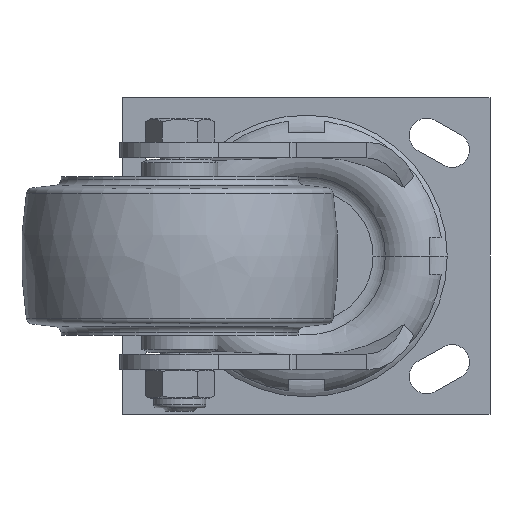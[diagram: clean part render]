
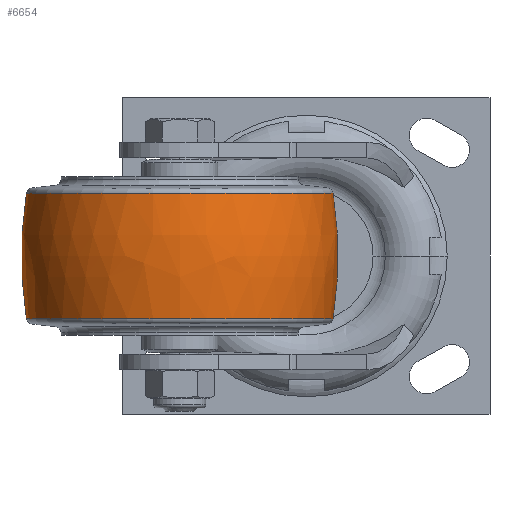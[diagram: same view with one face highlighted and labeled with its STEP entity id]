
A CAD part, front view. The second image highlights one B-rep face of the part: STEP entity #6654.
In plain terms, the highlighted free-form (B-spline) face has degree [3, 3] with [7, 4] control points.
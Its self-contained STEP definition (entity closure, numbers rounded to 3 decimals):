
#6226=CARTESIAN_POINT('',(0.,-76.741,0.));
#6227=DIRECTION('',(0.,0.,1.));
#6228=DIRECTION('',(0.156,0.988,0.));
#6229=AXIS2_PLACEMENT_3D('',#6226,#6227,#6228);
#6231=CARTESIAN_POINT('',(0.,76.741,0.));
#6232=DIRECTION('',(0.,0.,-1.));
#6233=DIRECTION('',(0.156,-0.988,0.));
#6234=AXIS2_PLACEMENT_3D('',#6231,#6232,#6233);
#6236=CARTESIAN_POINT('',(19.804,0.,0.));
#6237=DIRECTION('',(-1.,0.,0.));
#6238=DIRECTION('',(0.,1.,0.));
#6239=AXIS2_PLACEMENT_3D('',#6236,#6237,#6238);
#6251=CARTESIAN_POINT('',(-19.804,0.,0.));
#6252=DIRECTION('',(-1.,0.,0.));
#6253=DIRECTION('',(0.,1.,0.));
#6254=AXIS2_PLACEMENT_3D('',#6251,#6252,#6253);
#6461=CARTESIAN_POINT('',(19.804,48.443,0.));
#6462=VERTEX_POINT('',#6461);
#6463=CARTESIAN_POINT('',(-19.804,48.443,0.));
#6464=VERTEX_POINT('',#6463);
#6493=CARTESIAN_POINT('',(19.804,-48.443,
0.));
#6494=VERTEX_POINT('',#6493);
#6495=CARTESIAN_POINT('',(-19.804,-48.443,
0.));
#6496=VERTEX_POINT('',#6495);
#6618=CARTESIAN_POINT('',(-20.589,-48.221,
3.034));
#6619=CARTESIAN_POINT('',(-6.924,-50.466,
3.175));
#6620=CARTESIAN_POINT('',(6.924,-50.466,3.175));
#6621=CARTESIAN_POINT('',(20.589,-48.221,3.034));
#6622=CARTESIAN_POINT('',(-20.589,-50.088,
-26.641));
#6623=CARTESIAN_POINT('',(-6.924,-52.42,
-27.882));
#6624=CARTESIAN_POINT('',(6.924,-52.42,
-27.882));
#6625=CARTESIAN_POINT('',(20.589,-50.088,
-26.641));
#6626=CARTESIAN_POINT('',(-20.589,-29.734,
-48.316));
#6627=CARTESIAN_POINT('',(-6.924,-31.118,
-50.566));
#6628=CARTESIAN_POINT('',(6.924,-31.118,
-50.566));
#6629=CARTESIAN_POINT('',(20.589,-29.734,
-48.316));
#6630=CARTESIAN_POINT('',(-20.589,0.,
-48.316));
#6631=CARTESIAN_POINT('',(-6.924,0.,
-50.566));
#6632=CARTESIAN_POINT('',(6.924,0.,
-50.566));
#6633=CARTESIAN_POINT('',(20.589,0.,
-48.316));
#6634=CARTESIAN_POINT('',(-20.589,29.734,
-48.316));
#6635=CARTESIAN_POINT('',(-6.924,31.118,
-50.566));
#6636=CARTESIAN_POINT('',(6.924,31.118,-50.566));
#6637=CARTESIAN_POINT('',(20.589,29.734,-48.316));
#6638=CARTESIAN_POINT('',(-20.589,50.088,
-26.641));
#6639=CARTESIAN_POINT('',(-6.924,52.42,
-27.882));
#6640=CARTESIAN_POINT('',(6.924,52.42,-27.882));
#6641=CARTESIAN_POINT('',(20.589,50.088,-26.641));
#6642=CARTESIAN_POINT('',(-20.589,48.221,3.034));
#6643=CARTESIAN_POINT('',(-6.924,50.466,3.175));
#6644=CARTESIAN_POINT('',(6.924,50.466,3.175));
#6645=CARTESIAN_POINT('',(20.589,48.221,3.034));
#6646=(BOUNDED_SURFACE()B_SPLINE_SURFACE(3,3,((#6618,#6619,#6620,#6621),(#6622,
#6623,#6624,#6625),(#6626,#6627,#6628,#6629),(#6630,#6631,#6632,#6633),(#6634,
#6635,#6636,#6637),(#6638,#6639,#6640,#6641),(#6642,#6643,#6644,#6645)),
.UNSPECIFIED.,.F.,.F.,.F.)B_SPLINE_SURFACE_WITH_KNOTS((4,3,4),(4,4),(0.,1.,
2.),(0.,1.),.UNSPECIFIED.)GEOMETRIC_REPRESENTATION_ITEM()RATIONAL_B_SPLINE_SURFACE(((1.195,1.185,1.185,1.195),(
0.944,0.935,0.935,0.944),(
0.944,0.935,0.935,0.944),(
1.195,1.185,1.185,1.195),(
0.944,0.935,0.935,0.944),(
0.944,0.935,0.935,0.944),(
1.195,1.185,1.185,1.195)))REPRESENTATION_ITEM('')SURFACE());
#6647=ORIENTED_EDGE('',*,*,#6608,.T.);
#6649=ORIENTED_EDGE('',*,*,#6648,.T.);
#6650=ORIENTED_EDGE('',*,*,#6611,.F.);
#6651=ORIENTED_EDGE('',*,*,#6558,.F.);
#6652=EDGE_LOOP('',(#6647,#6649,#6650,#6651));
#6653=FACE_OUTER_BOUND('',#6652,.F.);
#6230=CIRCLE('',#6229,126.741);
#6235=CIRCLE('',#6234,126.741);
#6240=CIRCLE('',#6239,48.443);
#6255=CIRCLE('',#6254,48.443);
#6558=EDGE_CURVE('',#6462,#6494,#6240,.T.);
#6608=EDGE_CURVE('',#6462,#6464,#6230,.T.);
#6611=EDGE_CURVE('',#6494,#6496,#6235,.T.);
#6648=EDGE_CURVE('',#6464,#6496,#6255,.T.);
#6654=ADVANCED_FACE('',(#6653),#6646,.T.);
